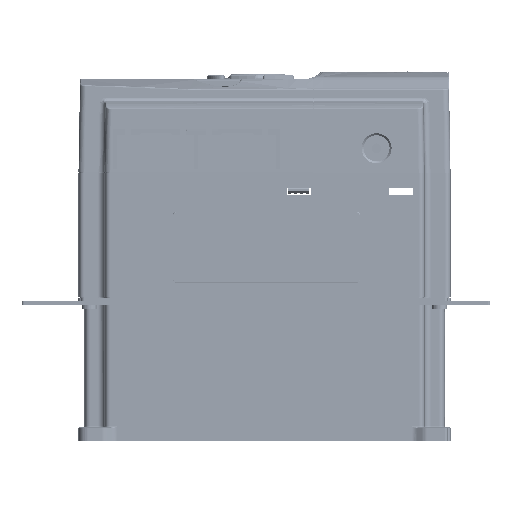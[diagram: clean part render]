
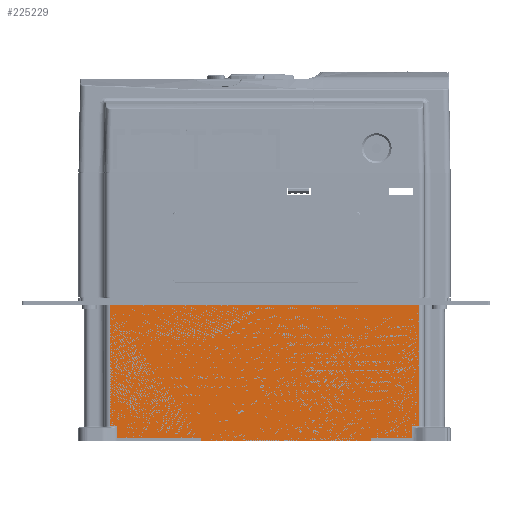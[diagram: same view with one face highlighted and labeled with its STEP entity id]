
A CAD part, left-side view. The second image highlights one B-rep face of the part: STEP entity #225229.
In plain terms, the highlighted planar face has unit normal (-1, 0, 0) as drawn and (1, 0, 0) by its records, which use the part's own axes.
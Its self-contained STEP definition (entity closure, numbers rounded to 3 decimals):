
#194594=DIRECTION('',(0.,0.,-1.));
#194595=VECTOR('',#194594,20.434);
#194596=CARTESIAN_POINT('',(60.,50.,75.434));
#194597=LINE('',#194596,#194595);
#195216=DIRECTION('',(0.,0.,-1.));
#195217=VECTOR('',#195216,41.794);
#195218=CARTESIAN_POINT('',(60.,50.,-30.));
#195219=LINE('',#195218,#195217);
#202683=DIRECTION('',(0.,1.,0.));
#202684=VECTOR('',#202683,1.5);
#202685=CARTESIAN_POINT('',(60.,50.,55.));
#202686=LINE('',#202685,#202684);
#202687=DIRECTION('',(0.,0.,1.));
#202688=VECTOR('',#202687,3.387);
#202689=CARTESIAN_POINT('',(60.,44.5,-75.181));
#202690=LINE('',#202689,#202688);
#202691=DIRECTION('',(0.,-1.,0.));
#202692=VECTOR('',#202691,60.5);
#202693=CARTESIAN_POINT('',(60.,44.5,-75.181));
#202694=LINE('',#202693,#202692);
#202695=DIRECTION('',(0.,0.,-1.));
#202696=VECTOR('',#202695,154.);
#202697=CARTESIAN_POINT('',(60.,-16.,78.819));
#202698=LINE('',#202697,#202696);
#202699=DIRECTION('',(0.,0.,1.));
#202700=VECTOR('',#202699,3.385);
#202701=CARTESIAN_POINT('',(60.,44.5,75.434));
#202702=LINE('',#202701,#202700);
#203256=DIRECTION('',(0.,0.,-1.));
#203257=VECTOR('',#203256,85.);
#203258=CARTESIAN_POINT('',(60.,51.5,55.));
#203259=LINE('',#203258,#203257);
#203284=DIRECTION('',(0.,1.,0.));
#203285=VECTOR('',#203284,1.5);
#203286=CARTESIAN_POINT('',(60.,50.,-30.));
#203287=LINE('',#203286,#203285);
#204202=DIRECTION('',(0.,-1.,0.));
#204203=VECTOR('',#204202,60.5);
#204204=CARTESIAN_POINT('',(60.,44.5,78.819));
#204205=LINE('',#204204,#204203);
#205209=DIRECTION('',(0.,-1.,0.));
#205210=VECTOR('',#205209,5.5);
#205211=CARTESIAN_POINT('',(60.,50.,75.434));
#205212=LINE('',#205211,#205210);
#205776=DIRECTION('',(0.,1.,
0.));
#205777=VECTOR('',#205776,5.5);
#205778=CARTESIAN_POINT('',(60.,44.5,
-71.794));
#205779=LINE('',#205778,#205777);
#213504=CARTESIAN_POINT('',(60.,50.,75.434));
#213506=VERTEX_POINT('',#213504);
#213567=CARTESIAN_POINT('',(60.,-16.,78.819));
#213568=CARTESIAN_POINT('',(60.,-16.,-75.181));
#213569=VERTEX_POINT('',#213567);
#213570=VERTEX_POINT('',#213568);
#213677=CARTESIAN_POINT('',(60.,50.,-71.794));
#213678=VERTEX_POINT('',#213677);
#213886=CARTESIAN_POINT('',(60.,44.5,78.819));
#213887=VERTEX_POINT('',#213886);
#213888=CARTESIAN_POINT('',(60.,44.5,75.434));
#213889=VERTEX_POINT('',#213888);
#213976=CARTESIAN_POINT('',(60.,44.5,-75.181));
#213977=VERTEX_POINT('',#213976);
#214260=CARTESIAN_POINT('',(60.,44.5,
-71.794));
#214261=VERTEX_POINT('',#214260);
#214361=CARTESIAN_POINT('',(60.,51.5,55.));
#214362=CARTESIAN_POINT('',(60.,51.5,-30.));
#214363=VERTEX_POINT('',#214361);
#214364=VERTEX_POINT('',#214362);
#214373=CARTESIAN_POINT('',(60.,50.,55.));
#214374=VERTEX_POINT('',#214373);
#214375=CARTESIAN_POINT('',(60.,50.,-30.));
#214376=VERTEX_POINT('',#214375);
#225202=CARTESIAN_POINT('',(60.,0.,78.819));
#225203=DIRECTION('',(1.,0.,0.));
#225204=DIRECTION('',(0.,0.,-1.));
#225205=AXIS2_PLACEMENT_3D('',#225202,#225203,#225204);
#225206=PLANE('',#225205);
#225207=ORIENTED_EDGE('',*,*,#218006,.T.);
#225209=ORIENTED_EDGE('',*,*,#225208,.T.);
#225211=ORIENTED_EDGE('',*,*,#225210,.T.);
#225213=ORIENTED_EDGE('',*,*,#225212,.F.);
#225214=ORIENTED_EDGE('',*,*,#218330,.T.);
#225216=ORIENTED_EDGE('',*,*,#225215,.F.);
#225217=ORIENTED_EDGE('',*,*,#218854,.F.);
#225219=ORIENTED_EDGE('',*,*,#225218,.T.);
#225221=ORIENTED_EDGE('',*,*,#225220,.F.);
#225223=ORIENTED_EDGE('',*,*,#225222,.F.);
#225224=ORIENTED_EDGE('',*,*,#225189,.F.);
#225226=ORIENTED_EDGE('',*,*,#225225,.F.);
#225227=EDGE_LOOP('',(#225207,#225209,#225211,#225213,#225214,#225216,#225217,
#225219,#225221,#225223,#225224,#225226));
#225228=FACE_OUTER_BOUND('',#225227,.F.);
#218006=EDGE_CURVE('',#213506,#214374,#194597,.T.);
#218330=EDGE_CURVE('',#214376,#213678,#195219,.T.);
#218854=EDGE_CURVE('',#213977,#214261,#202690,.T.);
#225189=EDGE_CURVE('',#213889,#213887,#202702,.T.);
#225208=EDGE_CURVE('',#214374,#214363,#202686,.T.);
#225210=EDGE_CURVE('',#214363,#214364,#203259,.T.);
#225212=EDGE_CURVE('',#214376,#214364,#203287,.T.);
#225215=EDGE_CURVE('',#214261,#213678,#205779,.T.);
#225218=EDGE_CURVE('',#213977,#213570,#202694,.T.);
#225220=EDGE_CURVE('',#213569,#213570,#202698,.T.);
#225222=EDGE_CURVE('',#213887,#213569,#204205,.T.);
#225225=EDGE_CURVE('',#213506,#213889,#205212,.T.);
#225229=ADVANCED_FACE('',(#225228),#225206,.T.);
